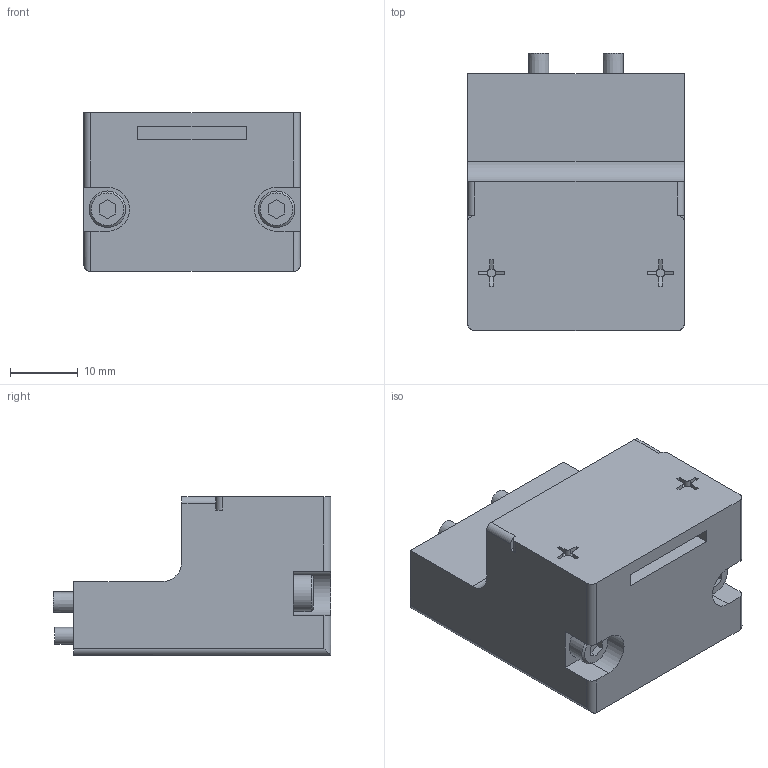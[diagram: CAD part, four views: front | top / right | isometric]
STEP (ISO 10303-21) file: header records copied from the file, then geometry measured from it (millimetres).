
FILE_DESCRIPTION(('STEP AP214'),'1');
FILE_NAME('KHG-12RS-D38_ver1.stp','2026-05-18T00:04:35',(' '),(' '),'Spatial InterOp 3D',' ',' ');
FILE_SCHEMA(('AUTOMOTIVE_DESIGN { 1 0 10303 214 1 1 1 1 }'));
Length unit declared in the file: millimetre
Products named in the file (1): KHG-12RS-D38_ver1
Bounding box: 32 x 41 x 23.5 mm (x, y, z)
Volume: 20958.8 mm3; surface area: 8245.4 mm2
Topology: 1 solids, 13 shells, 248 faces, 527 edges, 346 vertices
Faces by surface type: plane 167, cylinder 69, cone 12
Full cylindrical faces by diameter (mm): 1.02 x8, 1.8 x8, 2 x8, 2.15 x2, 2.5 x6, 3 x6, 3.5 x4, 5.41 x4, 6.5 x2
Entity records: 8219 total; most frequent: DIRECTION 1101, CARTESIAN_POINT 1034, ORIENTED_EDGE 906, EDGE_CURVE 453, AXIS2_PLACEMENT_3D 399, EDGE_LOOP 357, VERTEX_POINT 332, LINE 303
